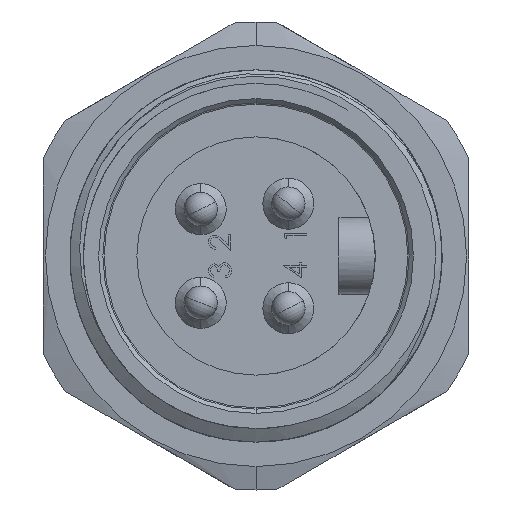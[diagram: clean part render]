
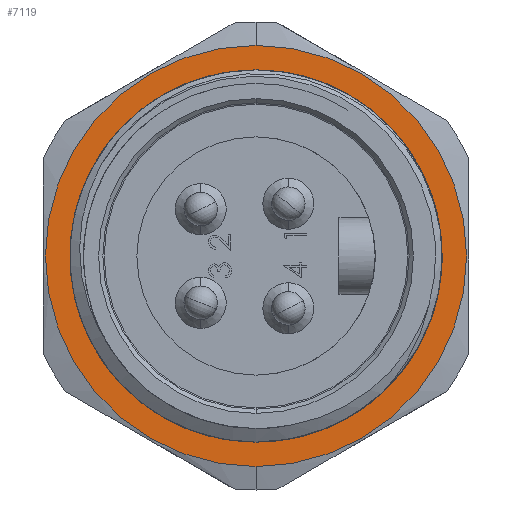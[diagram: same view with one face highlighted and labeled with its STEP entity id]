
A CAD part, left-side view. The second image highlights one B-rep face of the part: STEP entity #7119.
In plain terms, the highlighted planar face has unit normal (-1, 0, 0).
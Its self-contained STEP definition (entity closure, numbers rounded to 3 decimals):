
#5121 = FACE_BOUND ( 'NONE', #7120, .T. ) ;
#5192 = DIRECTION ( 'NONE',  ( 0., 0., -1. ) ) ;
#5193 = DIRECTION ( 'NONE',  ( 1., 0., 0. ) ) ;
#5194 = CARTESIAN_POINT ( 'NONE',  ( 9.398, 13.97, 0. ) ) ;
#5195 = AXIS2_PLACEMENT_3D ( 'NONE', #5194, #5193, #5192 ) ;
#5196 = PLANE ( 'NONE',  #5195 ) ;
#5197 = FACE_OUTER_BOUND ( 'NONE', #7102, .T. ) ;
#5272 = DIRECTION ( 'NONE',  ( 0., 0., 1. ) ) ;
#5273 = DIRECTION ( 'NONE',  ( -1., 0., 0. ) ) ;
#5274 = AXIS2_PLACEMENT_3D ( 'NONE', #5287, #5273, #5272 ) ;
#5275 = CIRCLE ( 'NONE', #5274, 12.573 ) ;
#5282 = DIRECTION ( 'NONE',  ( 0., 0., 1. ) ) ;
#5283 = DIRECTION ( 'NONE',  ( -1., 0., 0. ) ) ;
#5284 = CARTESIAN_POINT ( 'NONE',  ( 9.398, 0., 0. ) ) ;
#5285 = AXIS2_PLACEMENT_3D ( 'NONE', #5284, #5283, #5282 ) ;
#5286 = CIRCLE ( 'NONE', #5285, 10.414 ) ;
#5287 = CARTESIAN_POINT ( 'NONE',  ( 9.398, 0., 0. ) ) ;
#7099 = ORIENTED_EDGE ( 'NONE', *, *, #7100, .F. ) ;
#7100 = EDGE_CURVE ( 'NONE', #13755, #13737, #5286, .T. ) ;
#7101 = ORIENTED_EDGE ( 'NONE', *, *, #13739, .F. ) ;
#7102 = EDGE_LOOP ( 'NONE', ( #7103, #7105 ) ) ;
#7103 = ORIENTED_EDGE ( 'NONE', *, *, #7104, .T. ) ;
#7104 = EDGE_CURVE ( 'NONE', #13730, #13712, #5275, .T. ) ;
#7105 = ORIENTED_EDGE ( 'NONE', *, *, #13711, .T. ) ;
#7119 = ADVANCED_FACE ( 'NONE', ( #5121, #5197 ), #5196, .F. ) ;
#7120 = EDGE_LOOP ( 'NONE', ( #7099, #7101 ) ) ;
#13711 = EDGE_CURVE ( 'NONE', #13712, #13730, #17081, .T. ) ;
#13712 = VERTEX_POINT ( 'NONE', #17077 ) ;
#13730 = VERTEX_POINT ( 'NONE', #17140 ) ;
#13737 = VERTEX_POINT ( 'NONE', #17165 ) ;
#13739 = EDGE_CURVE ( 'NONE', #13737, #13755, #17164, .T. ) ;
#13755 = VERTEX_POINT ( 'NONE', #17141 ) ;
#17040 = CARTESIAN_POINT ( 'NONE',  ( 9.398, 0., 0. ) ) ;
#17077 = CARTESIAN_POINT ( 'NONE',  ( 9.398, 0., 12.573 ) ) ;
#17078 = DIRECTION ( 'NONE',  ( 0., 0., 1. ) ) ;
#17079 = DIRECTION ( 'NONE',  ( -1., 0., 0. ) ) ;
#17080 = AXIS2_PLACEMENT_3D ( 'NONE', #17040, #17079, #17078 ) ;
#17081 = CIRCLE ( 'NONE', #17080, 12.573 ) ;
#17140 = CARTESIAN_POINT ( 'NONE',  ( 9.398, 0., -12.573 ) ) ;
#17141 = CARTESIAN_POINT ( 'NONE',  ( 9.398, 0., 10.414 ) ) ;
#17160 = DIRECTION ( 'NONE',  ( 0., 0., 1. ) ) ;
#17161 = DIRECTION ( 'NONE',  ( -1., 0., 0. ) ) ;
#17162 = CARTESIAN_POINT ( 'NONE',  ( 9.398, 0., 0. ) ) ;
#17163 = AXIS2_PLACEMENT_3D ( 'NONE', #17162, #17161, #17160 ) ;
#17164 = CIRCLE ( 'NONE', #17163, 10.414 ) ;
#17165 = CARTESIAN_POINT ( 'NONE',  ( 9.398, 0., -10.414 ) ) ;
